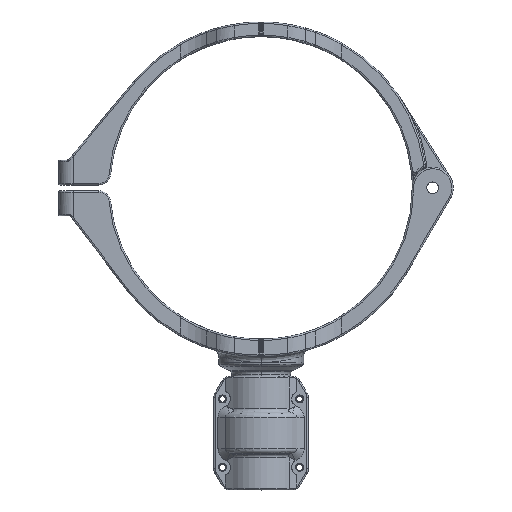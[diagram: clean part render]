
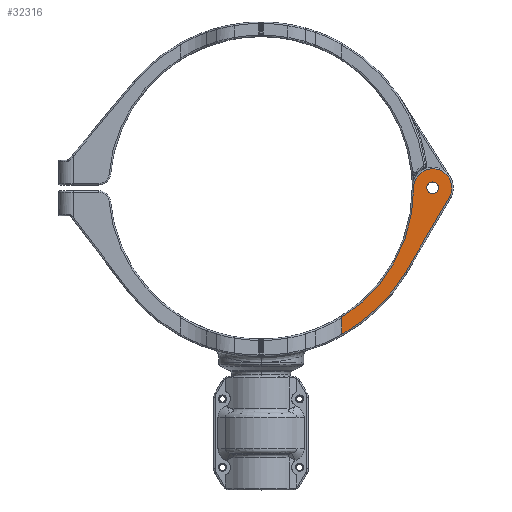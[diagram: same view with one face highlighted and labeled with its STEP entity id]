
A CAD part, top view. The second image highlights one B-rep face of the part: STEP entity #32316.
In plain terms, the highlighted planar face has unit normal (0, 0, 1).
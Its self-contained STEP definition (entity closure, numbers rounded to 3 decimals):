
#23362=CARTESIAN_POINT('',(0.,0.,20.149));
#23363=DIRECTION('',(0.,0.,1.));
#23364=DIRECTION('',(0.528,-0.849,0.));
#23365=AXIS2_PLACEMENT_3D('',#23362,#23363,#23364);
#23370=CARTESIAN_POINT('',(117.974,0.,20.149));
#23371=DIRECTION('',(0.,0.,-1.));
#23372=DIRECTION('',(-1.,0.,0.));
#23373=AXIS2_PLACEMENT_3D('',#23370,#23371,#23372);
#23378=CARTESIAN_POINT('',(117.974,0.,20.149));
#23379=DIRECTION('',(0.,0.,-1.));
#23380=DIRECTION('',(1.,0.,0.));
#23381=AXIS2_PLACEMENT_3D('',#23378,#23379,#23380);
#23386=DIRECTION('',(-0.505,-0.863,0.));
#23387=VECTOR('',#23386,59.527);
#23388=CARTESIAN_POINT('',(129.281,-6.608,20.149));
#23389=LINE('',#23388,#23387);
#23393=CARTESIAN_POINT('',(0.,0.,20.149));
#23394=DIRECTION('',(0.,0.,-1.));
#23395=DIRECTION('',(0.863,-0.505,0.));
#23396=AXIS2_PLACEMENT_3D('',#23393,#23394,#23395);
#23401=CARTESIAN_POINT('',(117.974,0.,20.149));
#23402=DIRECTION('',(0.,0.,1.));
#23403=DIRECTION('',(-1.,0.,0.));
#23404=AXIS2_PLACEMENT_3D('',#23401,#23402,#23403);
#23409=CARTESIAN_POINT('',(117.974,0.,20.149));
#23410=DIRECTION('',(0.,0.,1.));
#23411=DIRECTION('',(1.,0.,0.));
#23412=AXIS2_PLACEMENT_3D('',#23409,#23410,#23411);
#23435=DIRECTION('',(0.,-1.,0.));
#23436=VECTOR('',#23435,11.671);
#23437=CARTESIAN_POINT('',(55.41,-89.044,20.149));
#23438=LINE('',#23437,#23436);
#29427=CARTESIAN_POINT('',(113.944,0.,20.149));
#29428=VERTEX_POINT('',#29427);
#29429=CARTESIAN_POINT('',(122.004,0.,20.149));
#29430=VERTEX_POINT('',#29429);
#29431=CARTESIAN_POINT('',(55.41,-89.044,20.149));
#29432=CARTESIAN_POINT('',(55.41,-100.715,
20.149));
#29433=VERTEX_POINT('',#29431);
#29434=VERTEX_POINT('',#29432);
#29435=CARTESIAN_POINT('',(104.877,0.,20.149));
#29436=VERTEX_POINT('',#29435);
#29437=CARTESIAN_POINT('',(131.071,0.,20.149));
#29438=VERTEX_POINT('',#29437);
#29439=CARTESIAN_POINT('',(129.281,-6.608,20.149));
#29440=VERTEX_POINT('',#29439);
#29441=CARTESIAN_POINT('',(99.245,-58.002,20.149));
#29442=VERTEX_POINT('',#29441);
#32293=CARTESIAN_POINT('',(55.41,-201.493,20.149));
#32294=DIRECTION('',(0.,0.,1.));
#32295=DIRECTION('',(1.,0.,0.));
#32296=AXIS2_PLACEMENT_3D('',#32293,#32294,#32295);
#32297=PLANE('',#32296);
#32299=ORIENTED_EDGE('',*,*,#32298,.F.);
#32301=ORIENTED_EDGE('',*,*,#32300,.T.);
#32303=ORIENTED_EDGE('',*,*,#32302,.T.);
#32305=ORIENTED_EDGE('',*,*,#32304,.T.);
#32307=ORIENTED_EDGE('',*,*,#32306,.T.);
#32309=ORIENTED_EDGE('',*,*,#32308,.T.);
#32310=EDGE_LOOP('',(#32299,#32301,#32303,#32305,#32307,#32309));
#32311=FACE_OUTER_BOUND('',#32310,.F.);
#32312=ORIENTED_EDGE('',*,*,#32287,.T.);
#32313=ORIENTED_EDGE('',*,*,#32273,.T.);
#32314=EDGE_LOOP('',(#32312,#32313));
#32315=FACE_BOUND('',#32314,.F.);
#23366=CIRCLE('',#23365,104.877);
#23374=CIRCLE('',#23373,13.097);
#23382=CIRCLE('',#23381,13.097);
#23397=CIRCLE('',#23396,114.951);
#23405=CIRCLE('',#23404,4.03);
#23413=CIRCLE('',#23412,4.03);
#32273=EDGE_CURVE('',#29430,#29428,#23413,.T.);
#32287=EDGE_CURVE('',#29428,#29430,#23405,.T.);
#32298=EDGE_CURVE('',#29433,#29434,#23438,.T.);
#32300=EDGE_CURVE('',#29433,#29436,#23366,.T.);
#32302=EDGE_CURVE('',#29436,#29438,#23374,.T.);
#32304=EDGE_CURVE('',#29438,#29440,#23382,.T.);
#32306=EDGE_CURVE('',#29440,#29442,#23389,.T.);
#32308=EDGE_CURVE('',#29442,#29434,#23397,.T.);
#32316=ADVANCED_FACE('',(#32311,#32315),#32297,.T.);
